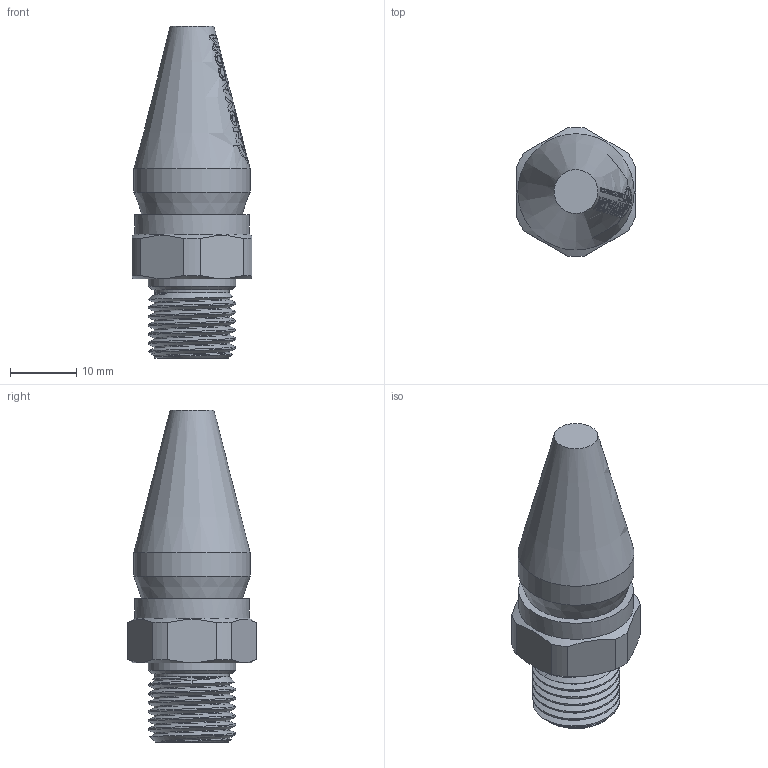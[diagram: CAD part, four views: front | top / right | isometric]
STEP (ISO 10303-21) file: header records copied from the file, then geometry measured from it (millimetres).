
FILE_DESCRIPTION (( 'STEP AP214' ), '1' );
FILE_NAME ('STEP-BS_14.STEP', '2023-07-19T15:15:16', ( '' ), ( '' ), 'SwSTEP 2.0', 'SolidWorks 2021', '' );
FILE_SCHEMA (( 'AUTOMOTIVE_DESIGN' ));
Length unit declared in the file: millimetre
Products named in the file (1): STEP-BS_14
Bounding box: 18 x 19.48 x 50 mm (x, y, z)
Volume: 8101.5 mm3; surface area: 2894.8 mm2
Topology: 1 solids, 1 shells, 551 faces, 1474 edges, 982 vertices
Faces by surface type: bspline 467, cone 62, cylinder 11, plane 11
Full cylindrical faces by diameter (mm): 11.15 x1, 13.15 x1, 17.3 x1, 17.5 x1
Entity records: 43719 total; most frequent: CARTESIAN_POINT 28160, ORIENTED_EDGE 2906, EDGE_CURVE 1453, B_SPLINE_CURVE_WITH_KNOTS 1410, VERTEX_POINT 973, EDGE_LOOP 618, FACE_OUTER_BOUND 554, UNCERTAINTY_MEASURE_WITH_UNIT 553
